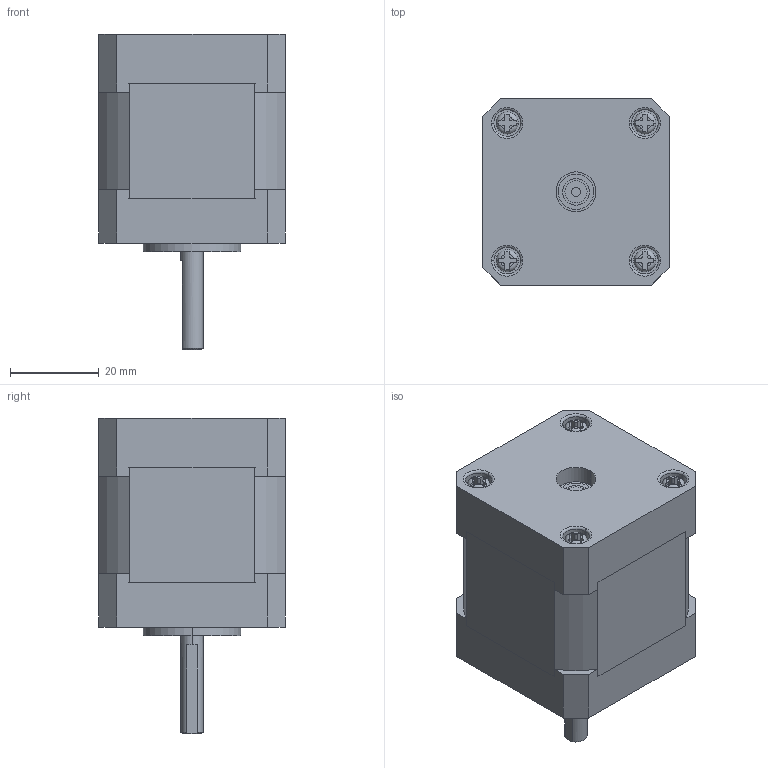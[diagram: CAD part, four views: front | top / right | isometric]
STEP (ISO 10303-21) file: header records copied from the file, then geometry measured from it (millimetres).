
FILE_DESCRIPTION (( 'STEP AP214' ), '1' );
FILE_NAME ('42J1848-810.STEP', '2016-06-06T03:02:10', ( 'User' ), ( 'china' ), 'SwSTEP 2.0', 'SolidWorks 2010', '' );
FILE_SCHEMA (( 'AUTOMOTIVE_DESIGN' ));
Length unit declared in the file: millimetre
Products named in the file (4): 42儂旯; 42奻裔2; 42菁裔2; 42J1848-810
Assembly tree (3 placements, depth 2):
  42J1848-810
    42儂旯
    42菁裔2
    42奻裔2
Bounding box: 42 x 42 x 71 mm (x, y, z)
Volume: 80569 mm3; surface area: 19377.8 mm2
Topology: 3 solids, 3 shells, 216 faces, 543 edges, 357 vertices
Faces by surface type: plane 124, cylinder 64, torus 16, cone 12
Entity records: 6825 total; most frequent: CARTESIAN_POINT 1408, DIRECTION 1123, ORIENTED_EDGE 1086, EDGE_CURVE 543, AXIS2_PLACEMENT_3D 416, VERTEX_POINT 357, VECTOR 291, LINE 291
